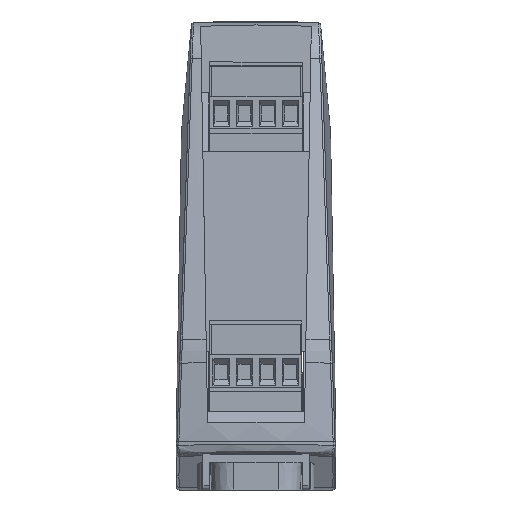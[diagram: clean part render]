
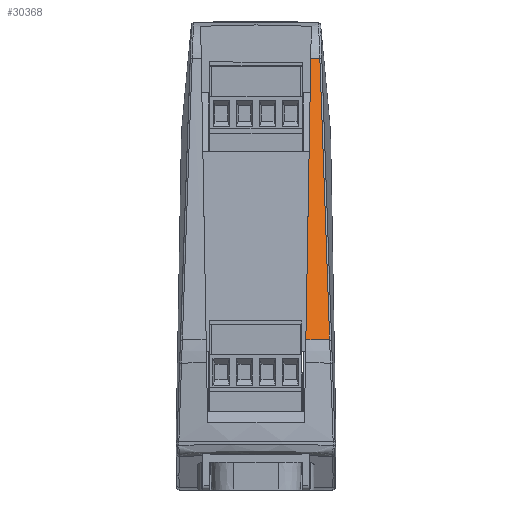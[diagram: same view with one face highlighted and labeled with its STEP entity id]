
A CAD part, front view. The second image highlights one B-rep face of the part: STEP entity #30368.
In plain terms, the highlighted free-form (B-spline) face has degree [3, 3] with [4, 5] control points.
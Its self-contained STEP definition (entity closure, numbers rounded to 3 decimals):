
#2775 = B_SPLINE_CURVE_WITH_KNOTS ( 'NONE', 3,
 ( #84988, #131481, #109023, #142402 ),
 .UNSPECIFIED., .F., .F.,
 ( 4, 4 ),
 ( 0., 1. ),
 .UNSPECIFIED. ) ;
#9841 = CARTESIAN_POINT ( 'NONE',  ( 10.803, 0.443, 32.602 ) ) ;
#10625 = CARTESIAN_POINT ( 'NONE',  ( 11.334, 7.646, 63.036 ) ) ;
#12473 = CARTESIAN_POINT ( 'NONE',  ( 14.141, 13.062, 84.574 ) ) ;
#15358 = CARTESIAN_POINT ( 'NONE',  ( -17.5, 6.357, 53.733 ) ) ;
#21000 = CARTESIAN_POINT ( 'NONE',  ( 11.865, 14.853, 93.47 ) ) ;
#23894 = CARTESIAN_POINT ( 'NONE',  ( 17.5, 11.929, 77.467 ) ) ;
#24649 = CARTESIAN_POINT ( 'NONE',  ( 11.667, 16.473, 101.2 ) ) ;
#26173 = CARTESIAN_POINT ( 'NONE',  ( 17.5, 17.5, 101.2 ) ) ;
#30368 = ADVANCED_FACE ( 'NONE', ( #68033 ), #117589, .T. ) ;
#30644 = EDGE_CURVE ( 'NONE', #55735, #116871, #61488, .T. ) ;
#32685 = CARTESIAN_POINT ( 'NONE',  ( 10.803, 0.443, 32.602 ) ) ;
#33888 = B_SPLINE_CURVE_WITH_KNOTS ( 'NONE', 3,
 ( #119262, #131639, #94483, #105337, #141780, #141002, #12473, #120014, #82074, #35639, #129331 ),
 .UNSPECIFIED., .F., .F.,
 ( 4, 2, 2, 1, 2, 4 ),
 ( 0., 0.031, 0.047, 0.055, 0.059, 0.063 ),
 .UNSPECIFIED. ) ;
#33889 = CARTESIAN_POINT ( 'NONE',  ( 13.832, 15.106, 93.465 ) ) ;
#34224 = CARTESIAN_POINT ( 'NONE',  ( 14.222, 0.844, 32.54 ) ) ;
#34544 = CARTESIAN_POINT ( 'NONE',  ( 10.98, 2.843, 42.747 ) ) ;
#35500 = CARTESIAN_POINT ( 'NONE',  ( -17.5, 0.786, 30. ) ) ;
#35639 = CARTESIAN_POINT ( 'NONE',  ( 13.878, 14.814, 92.195 ) ) ;
#37034 = CARTESIAN_POINT ( 'NONE',  ( 17.5, 0.786, 30. ) ) ;
#41007 = CARTESIAN_POINT ( 'NONE',  ( 10.803, 0.443, 32.602 ) ) ;
#41207 = B_SPLINE_CURVE_WITH_KNOTS ( 'NONE', 3,
 ( #32685, #115571, #34224, #139595 ),
 .UNSPECIFIED., .F., .F.,
 ( 4, 4 ),
 ( 0., 1. ),
 .UNSPECIFIED. ) ;
#45436 = CARTESIAN_POINT ( 'NONE',  ( 11.865, 14.853, 93.47 ) ) ;
#50942 = CARTESIAN_POINT ( 'NONE',  ( 0., 4.343, 53.905 ) ) ;
#55735 = VERTEX_POINT ( 'NONE', #41007 ) ;
#56445 = CARTESIAN_POINT ( 'NONE',  ( -17.5, 17.5, 101.2 ) ) ;
#57017 = CARTESIAN_POINT ( 'NONE',  ( 11.511, 10.048, 73.181 ) ) ;
#59486 = CARTESIAN_POINT ( 'NONE',  ( 11.667, 5.35, 53.819 ) ) ;
#61488 = B_SPLINE_CURVE_WITH_KNOTS ( 'NONE', 3,
 ( #9841, #34544, #139927, #10625, #57017, #104250, #45436 ),
 .UNSPECIFIED., .F., .F.,
 ( 4, 3, 4 ),
 ( 0., 0.031, 0.063 ),
 .UNSPECIFIED. ) ;
#68033 = FACE_OUTER_BOUND ( 'NONE', #68689, .T. ) ;
#68689 = EDGE_LOOP ( 'NONE', ( #124467, #71016, #135521, #138804 ) ) ;
#71016 = ORIENTED_EDGE ( 'NONE', *, *, #144841, .T. ) ;
#71124 = CARTESIAN_POINT ( 'NONE',  ( -11.667, 10.911, 77.51 ) ) ;
#73424 = CARTESIAN_POINT ( 'NONE',  ( 11.667, 10.911, 77.51 ) ) ;
#73602 = EDGE_CURVE ( 'NONE', #55735, #85398, #41207, .T. ) ;
#82074 = CARTESIAN_POINT ( 'NONE',  ( 13.92, 14.522, 90.925 ) ) ;
#84234 = CARTESIAN_POINT ( 'NONE',  ( 0., 9.894, 77.552 ) ) ;
#84988 = CARTESIAN_POINT ( 'NONE',  ( 13.832, 15.106, 93.465 ) ) ;
#84992 = CARTESIAN_POINT ( 'NONE',  ( 0., 15.446, 101.2 ) ) ;
#85398 = VERTEX_POINT ( 'NONE', #123003 ) ;
#92042 = CARTESIAN_POINT ( 'NONE',  ( -11.667, 16.473, 101.2 ) ) ;
#94483 = CARTESIAN_POINT ( 'NONE',  ( 15.249, 5.772, 52.822 ) ) ;
#97040 = VERTEX_POINT ( 'NONE', #33889 ) ;
#97392 = CARTESIAN_POINT ( 'NONE',  ( -11.667, -0.211, 30.129 ) ) ;
#104250 = CARTESIAN_POINT ( 'NONE',  ( 11.688, 12.45, 83.326 ) ) ;
#105337 = CARTESIAN_POINT ( 'NONE',  ( 14.717, 9.27, 68.063 ) ) ;
#109023 = CARTESIAN_POINT ( 'NONE',  ( 12.521, 14.931, 93.468 ) ) ;
#109028 = CARTESIAN_POINT ( 'NONE',  ( 17.5, 6.357, 53.733 ) ) ;
#115571 = CARTESIAN_POINT ( 'NONE',  ( 12.504, 0.621, 32.574 ) ) ;
#116871 = VERTEX_POINT ( 'NONE', #21000 ) ;
#117589 = B_SPLINE_SURFACE_WITH_KNOTS ( 'NONE', 3, 3, ( 
 ( #56445, #92042, #84992, #24649, #26173 ),
 ( #129964, #71124, #84234, #73424, #23894 ),
 ( #15358, #118371, #50942, #59486, #109028 ),
 ( #35500, #97392, #132251, #143163, #37034 ) ),
 .UNSPECIFIED., .F., .F., .F.,
 ( 4, 4 ),
 ( 4, 1, 4 ),
 ( 0., 1. ),
 ( 0., 0.5, 1. ),
 .UNSPECIFIED. ) ;
#118371 = CARTESIAN_POINT ( 'NONE',  ( -11.667, 5.35, 53.819 ) ) ;
#119262 = CARTESIAN_POINT ( 'NONE',  ( 15.956, 1.112, 32.499 ) ) ;
#120014 = CARTESIAN_POINT ( 'NONE',  ( 14.009, 13.938, 88.385 ) ) ;
#123003 = CARTESIAN_POINT ( 'NONE',  ( 15.956, 1.112, 32.499 ) ) ;
#124467 = ORIENTED_EDGE ( 'NONE', *, *, #73602, .T. ) ;
#125694 = EDGE_CURVE ( 'NONE', #97040, #116871, #2775, .T. ) ;
#129331 = CARTESIAN_POINT ( 'NONE',  ( 13.832, 15.106, 93.465 ) ) ;
#129964 = CARTESIAN_POINT ( 'NONE',  ( -17.5, 11.929, 77.467 ) ) ;
#131481 = CARTESIAN_POINT ( 'NONE',  ( 13.176, 15.015, 93.467 ) ) ;
#131639 = CARTESIAN_POINT ( 'NONE',  ( 15.603, 3.441, 42.66 ) ) ;
#132251 = CARTESIAN_POINT ( 'NONE',  ( 0., -1.208, 30.257 ) ) ;
#135521 = ORIENTED_EDGE ( 'NONE', *, *, #125694, .T. ) ;
#138804 = ORIENTED_EDGE ( 'NONE', *, *, #30644, .F. ) ;
#139595 = CARTESIAN_POINT ( 'NONE',  ( 15.956, 1.112, 32.499 ) ) ;
#139927 = CARTESIAN_POINT ( 'NONE',  ( 11.157, 5.245, 52.891 ) ) ;
#141002 = CARTESIAN_POINT ( 'NONE',  ( 14.274, 12.187, 80.764 ) ) ;
#141780 = CARTESIAN_POINT ( 'NONE',  ( 14.54, 10.436, 73.144 ) ) ;
#142402 = CARTESIAN_POINT ( 'NONE',  ( 11.865, 14.853, 93.47 ) ) ;
#143163 = CARTESIAN_POINT ( 'NONE',  ( 11.667, -0.211, 30.129 ) ) ;
#144841 = EDGE_CURVE ( 'NONE', #85398, #97040, #33888, .T. ) ;
